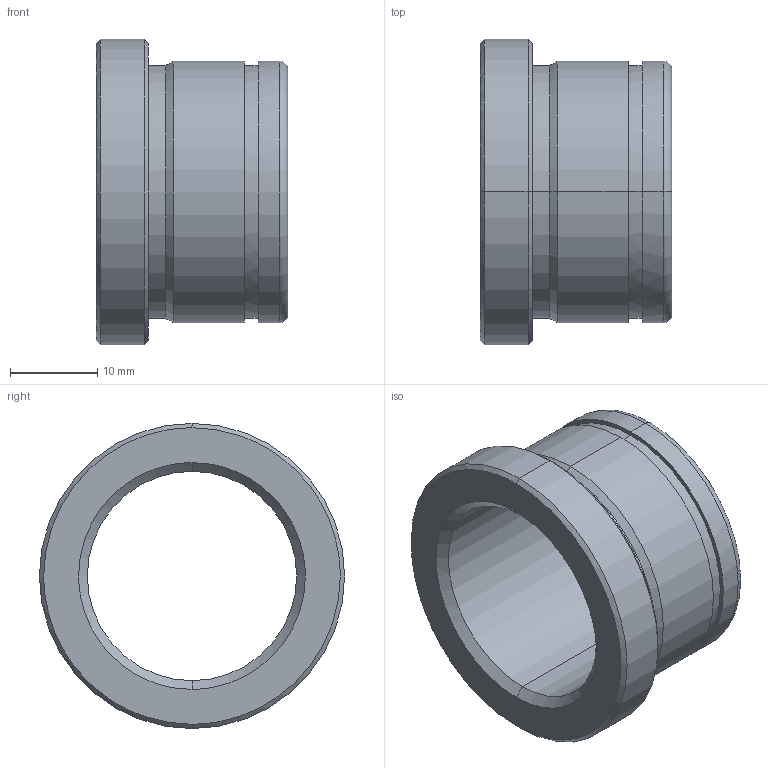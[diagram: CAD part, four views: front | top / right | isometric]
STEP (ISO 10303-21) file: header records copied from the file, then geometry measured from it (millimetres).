
FILE_DESCRIPTION(('CATIA V5 STEP Exchange'),'2;1');
FILE_NAME('C:\Users\Utente\Desktop\IO LAVORO\3D X SITO CF\X SITO\PLASTICA\553\553-24X22.stp','2021-05-25T18:25:07+00:00',('none'),('none'),'CATIA Version 5 Release 20 GA (IN-10)','CATIA V5 STEP AP203','none');
FILE_SCHEMA(('CONFIG_CONTROL_DESIGN'));
Length unit declared in the file: millimetre
Products named in the file (1): 553-24X22
Bounding box: 22 x 35 x 35 mm (x, y, z)
Volume: 6819.5 mm3; surface area: 4788.3 mm2
Topology: 1 solids, 1 shells, 29 faces, 92 edges, 68 vertices
Faces by surface type: cylinder 12, cone 8, plane 5, torus 4
Entity records: 1222 total; most frequent: CARTESIAN_POINT 368, ORIENTED_EDGE 184, DIRECTION 136, EDGE_CURVE 92, AXIS2_PLACEMENT_3D 88, VERTEX_POINT 68, CIRCLE 58, EDGE_LOOP 34
